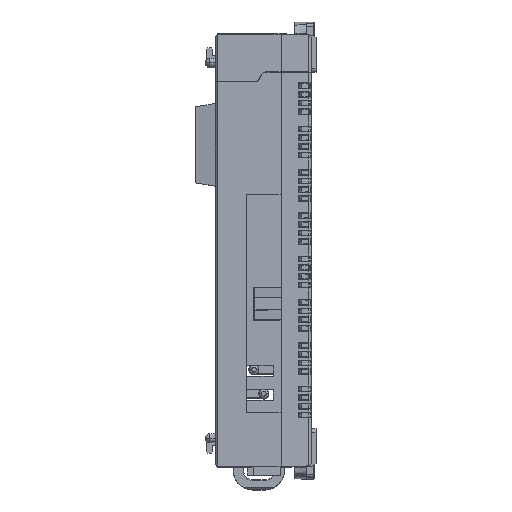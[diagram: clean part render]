
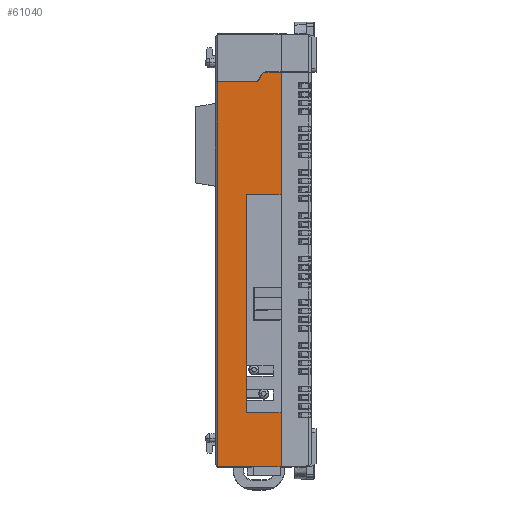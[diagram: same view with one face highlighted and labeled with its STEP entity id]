
A CAD part, top view. The second image highlights one B-rep face of the part: STEP entity #61040.
In plain terms, the highlighted planar face has unit normal (0, 0, 1).
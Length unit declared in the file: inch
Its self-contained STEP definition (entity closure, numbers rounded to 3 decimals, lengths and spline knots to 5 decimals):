
#2396 = PLANE ( 'NONE',  #71607 ) ;
#2836 = CARTESIAN_POINT ( 'NONE',  ( -0.28346, 0.45669, 1.1811 ) ) ;
#5796 = CARTESIAN_POINT ( 'NONE',  ( -0.12294, 1.45669, 1.1811 ) ) ;
#7641 = EDGE_CURVE ( 'NONE', #79472, #19666, #25967, .T. ) ;
#7662 = CARTESIAN_POINT ( 'NONE',  ( -0.21386, 1.41732, 1.1811 ) ) ;
#8047 = DIRECTION ( 'NONE',  ( 0., -1., 0. ) ) ;
#10633 = CARTESIAN_POINT ( 'NONE',  ( -0.14567, 1.45669, 1.1811 ) ) ;
#10636 = VERTEX_POINT ( 'NONE', #46429 ) ;
#11144 = DIRECTION ( 'NONE',  ( 1., 0., 0. ) ) ;
#11545 = LINE ( 'NONE', #2836, #101565 ) ;
#13050 = ORIENTED_EDGE ( 'NONE', *, *, #62006, .F. ) ;
#13295 = EDGE_CURVE ( 'NONE', #10636, #70794, #98557, .T. ) ;
#13301 = VERTEX_POINT ( 'NONE', #24943 ) ;
#15034 = VERTEX_POINT ( 'NONE', #45489 ) ;
#16010 = VERTEX_POINT ( 'NONE', #40145 ) ;
#17661 = DIRECTION ( 'NONE',  ( 0., 0., 1. ) ) ;
#17759 = VERTEX_POINT ( 'NONE', #89436 ) ;
#19666 = VERTEX_POINT ( 'NONE', #45115 ) ;
#22476 = CARTESIAN_POINT ( 'NONE',  ( -0.28346, 0.45669, 1.1811 ) ) ;
#24943 = CARTESIAN_POINT ( 'NONE',  ( -0.28346, -1.32283, 1.1811 ) ) ;
#25809 = EDGE_CURVE ( 'NONE', #63224, #15034, #68731, .T. ) ;
#25967 = CIRCLE ( 'NONE', #100811, 0.03937 ) ;
#27294 = DIRECTION ( 'NONE',  ( 0., 0., 1. ) ) ;
#28225 = LINE ( 'NONE', #53861, #89084 ) ;
#28789 = ORIENTED_EDGE ( 'NONE', *, *, #29895, .F. ) ;
#29298 = DIRECTION ( 'NONE',  ( 1., 0., 0. ) ) ;
#29895 = EDGE_CURVE ( 'NONE', #13301, #63224, #31738, .T. ) ;
#31738 = LINE ( 'NONE', #38834, #60723 ) ;
#35196 = ORIENTED_EDGE ( 'NONE', *, *, #52140, .F. ) ;
#35472 = CARTESIAN_POINT ( 'NONE',  ( -0.12294, 1.41732, 1.1811 ) ) ;
#37650 = DIRECTION ( 'NONE',  ( 0., -1., 0. ) ) ;
#38002 = LINE ( 'NONE', #53845, #103776 ) ;
#38600 = ORIENTED_EDGE ( 'NONE', *, *, #42149, .F. ) ;
#38834 = CARTESIAN_POINT ( 'NONE',  ( -0.28346, -1.32283, 1.1811 ) ) ;
#39696 = DIRECTION ( 'NONE',  ( -1., 0., 0. ) ) ;
#40145 = CARTESIAN_POINT ( 'NONE',  ( -0.17976, 1.39764, 1.1811 ) ) ;
#41082 = ORIENTED_EDGE ( 'NONE', *, *, #102331, .T. ) ;
#41347 = ORIENTED_EDGE ( 'NONE', *, *, #25809, .F. ) ;
#41495 = ORIENTED_EDGE ( 'NONE', *, *, #13295, .F. ) ;
#42149 = EDGE_CURVE ( 'NONE', #79472, #56775, #54680, .T. ) ;
#43100 = ORIENTED_EDGE ( 'NONE', *, *, #46921, .T. ) ;
#43125 = DIRECTION ( 'NONE',  ( 0., -1., 0. ) ) ;
#45115 = CARTESIAN_POINT ( 'NONE',  ( -0.15703, 1.43701, 1.1811 ) ) ;
#45412 = VECTOR ( 'NONE', #100348, 39.37008 ) ;
#45489 = CARTESIAN_POINT ( 'NONE',  ( 0., -1.77165, 1.1811 ) ) ;
#46429 = CARTESIAN_POINT ( 'NONE',  ( 0., 0.45669, 1.1811 ) ) ;
#46921 = EDGE_CURVE ( 'NONE', #90239, #72020, #82703, .T. ) ;
#47567 = DIRECTION ( 'NONE',  ( 1., 0., 0. ) ) ;
#49183 = CARTESIAN_POINT ( 'NONE',  ( -0.51969, -1.77165, 1.1811 ) ) ;
#52140 = EDGE_CURVE ( 'NONE', #56775, #10636, #66596, .T. ) ;
#52506 = DIRECTION ( 'NONE',  ( 1., 0., 0. ) ) ;
#52554 = CARTESIAN_POINT ( 'NONE',  ( 0., 1.45669, 1.1811 ) ) ;
#52747 = ORIENTED_EDGE ( 'NONE', *, *, #7641, .T. ) ;
#52891 = CARTESIAN_POINT ( 'NONE',  ( 0., 1.77165, 1.1811 ) ) ;
#53845 = CARTESIAN_POINT ( 'NONE',  ( -0.53937, -1.77165, 1.1811 ) ) ;
#53861 = CARTESIAN_POINT ( 'NONE',  ( -0.19113, 1.37795, 1.1811 ) ) ;
#54680 = LINE ( 'NONE', #79213, #95128 ) ;
#55170 = EDGE_CURVE ( 'NONE', #70794, #13301, #11545, .T. ) ;
#56775 = VERTEX_POINT ( 'NONE', #52554 ) ;
#57156 = CARTESIAN_POINT ( 'NONE',  ( -0.28346, 0.45669, 1.1811 ) ) ;
#58108 = EDGE_CURVE ( 'NONE', #16010, #19666, #68386, .T. ) ;
#58656 = ORIENTED_EDGE ( 'NONE', *, *, #58108, .F. ) ;
#59616 = CARTESIAN_POINT ( 'NONE',  ( -0.53937, 1.77165, 1.1811 ) ) ;
#60576 = DIRECTION ( 'NONE',  ( 0., -1., 0. ) ) ;
#60723 = VECTOR ( 'NONE', #47567, 39.37008 ) ;
#60763 = DIRECTION ( 'NONE',  ( 0.5, 0.866, 0. ) ) ;
#61040 = ADVANCED_FACE ( 'NONE', ( #85747 ), #2396, .T. ) ;
#61508 = DIRECTION ( 'NONE',  ( 1., 0., 0. ) ) ;
#62006 = EDGE_CURVE ( 'NONE', #90239, #17759, #28225, .T. ) ;
#63224 = VERTEX_POINT ( 'NONE', #83272 ) ;
#64980 = CARTESIAN_POINT ( 'NONE',  ( 0., 1.77165, 1.1811 ) ) ;
#66596 = LINE ( 'NONE', #64980, #45412 ) ;
#68386 = LINE ( 'NONE', #10633, #78400 ) ;
#68731 = LINE ( 'NONE', #52891, #81255 ) ;
#70794 = VERTEX_POINT ( 'NONE', #22476 ) ;
#71607 = AXIS2_PLACEMENT_3D ( 'NONE', #59616, #17661, #52506 ) ;
#72020 = VERTEX_POINT ( 'NONE', #49183 ) ;
#75774 = VECTOR ( 'NONE', #39696, 39.37008 ) ;
#76792 = EDGE_CURVE ( 'NONE', #16010, #17759, #77057, .T. ) ;
#77057 = CIRCLE ( 'NONE', #104854, 0.03937 ) ;
#78400 = VECTOR ( 'NONE', #60763, 39.37008 ) ;
#79213 = CARTESIAN_POINT ( 'NONE',  ( 0., 1.45669, 1.1811 ) ) ;
#79472 = VERTEX_POINT ( 'NONE', #5796 ) ;
#81255 = VECTOR ( 'NONE', #43125, 39.37008 ) ;
#82703 = LINE ( 'NONE', #100644, #86642 ) ;
#83272 = CARTESIAN_POINT ( 'NONE',  ( 0., -1.32283, 1.1811 ) ) ;
#85747 = FACE_OUTER_BOUND ( 'NONE', #89005, .T. ) ;
#86642 = VECTOR ( 'NONE', #8047, 39.37008 ) ;
#87588 = ORIENTED_EDGE ( 'NONE', *, *, #76792, .T. ) ;
#89005 = EDGE_LOOP ( 'NONE', ( #41495, #35196, #38600, #52747, #58656, #87588, #13050, #43100, #41082, #41347, #28789, #101073 ) ) ;
#89084 = VECTOR ( 'NONE', #61508, 39.37008 ) ;
#89436 = CARTESIAN_POINT ( 'NONE',  ( -0.21386, 1.37795, 1.1811 ) ) ;
#90239 = VERTEX_POINT ( 'NONE', #94007 ) ;
#94007 = CARTESIAN_POINT ( 'NONE',  ( -0.51969, 1.37795, 1.1811 ) ) ;
#95128 = VECTOR ( 'NONE', #11144, 39.37008 ) ;
#98557 = LINE ( 'NONE', #57156, #75774 ) ;
#100348 = DIRECTION ( 'NONE',  ( 0., -1., 0. ) ) ;
#100644 = CARTESIAN_POINT ( 'NONE',  ( -0.51969, -1.77165, 1.1811 ) ) ;
#100811 = AXIS2_PLACEMENT_3D ( 'NONE', #35472, #27294, #60576 ) ;
#101073 = ORIENTED_EDGE ( 'NONE', *, *, #55170, .F. ) ;
#101565 = VECTOR ( 'NONE', #37650, 39.37008 ) ;
#102331 = EDGE_CURVE ( 'NONE', #72020, #15034, #38002, .T. ) ;
#103776 = VECTOR ( 'NONE', #29298, 39.37008 ) ;
#104854 = AXIS2_PLACEMENT_3D ( 'NONE', #7662, #105748, #106833 ) ;
#105748 = DIRECTION ( 'NONE',  ( 0., 0., -1. ) ) ;
#106833 = DIRECTION ( 'NONE',  ( 0., -1., 0. ) ) ;
